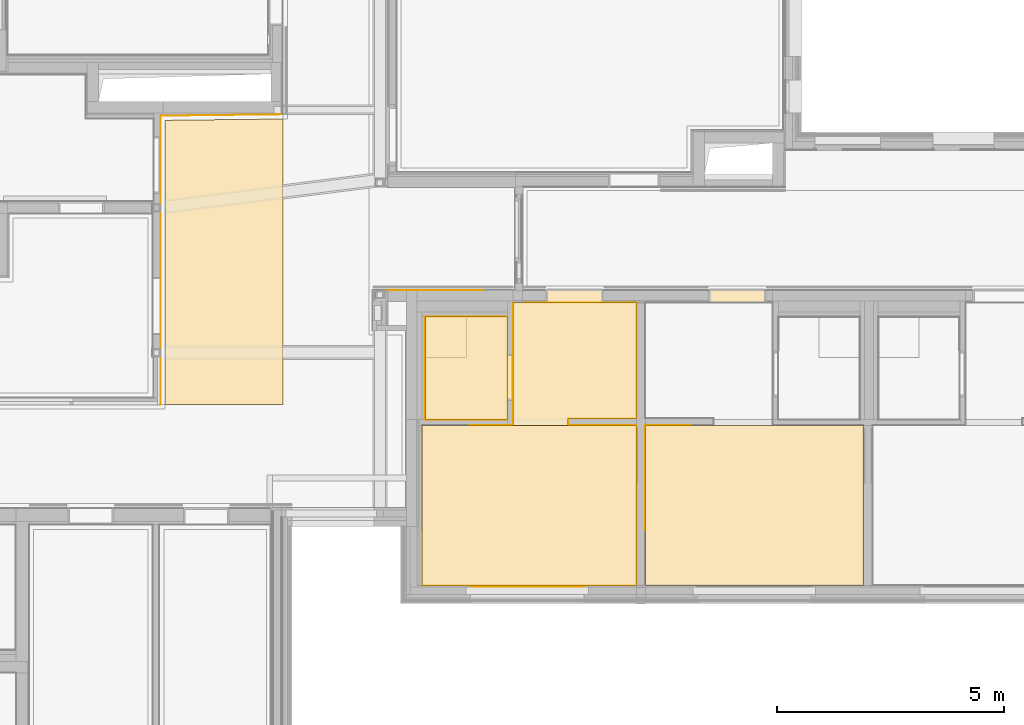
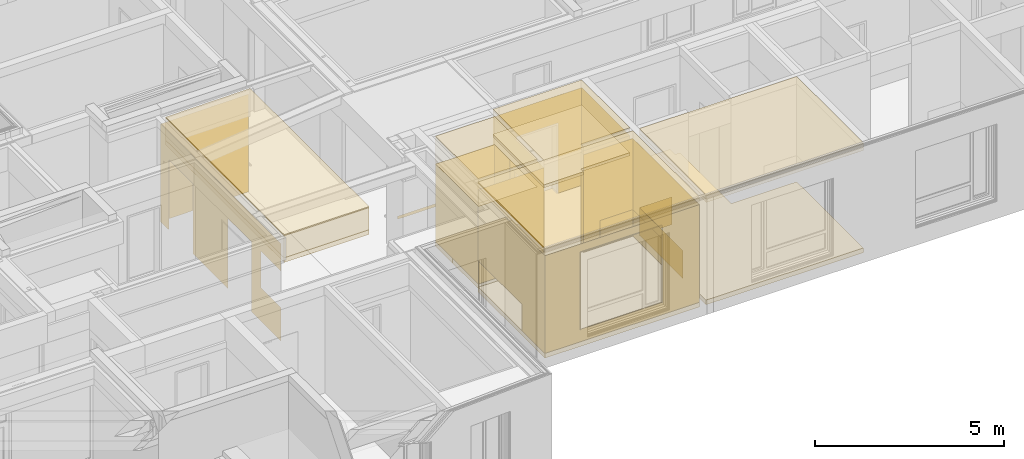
# One storey, part 183 of 222: 31 coverings.
"""IFC4 building model written with IfcOpenShell, lengths in metres."""

from ifc_helpers import new_model, entity, si_unit, converted_unit, derived_unit, frame, frame_2d, origin, origin_with_axes, place, context, subcontext, project, spatial, polyline, rectangle, outline, extrude, material, layer, layer_set, layer_usage, element, save


model = new_model("IFC4")

# Units and contexts
model_context = context("Model", 3, precision=1e-05, world=origin())
body_context = subcontext(model_context, "Body", "Model", "MODEL_VIEW")
ifc_project = project(units=[si_unit("LENGTHUNIT", "METRE"), si_unit("AREAUNIT", "SQUARE_METRE"), si_unit("VOLUMEUNIT", "CUBIC_METRE"), si_unit("MASSUNIT", "GRAM", prefix="KILO"), converted_unit("PLANEANGLEUNIT", "DEGREE", entity("IfcPlaneAngleMeasure", 0.0174532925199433), si_unit("PLANEANGLEUNIT", "RADIAN"), dimensions=[0, 0, 0, 0, 0, 0, 0]), derived_unit("THERMALTRANSMITTANCEUNIT", [(si_unit("POWERUNIT", "WATT"), 1), (si_unit("THERMODYNAMICTEMPERATUREUNIT", "KELVIN"), -1), (si_unit("LENGTHUNIT", "METRE"), -2)]), derived_unit("VOLUMETRICFLOWRATEUNIT", [(si_unit("LENGTHUNIT", "METRE"), 3), (converted_unit("TIMEUNIT", "hour", entity("IfcTimeMeasure", 3600.0), si_unit("TIMEUNIT", "SECOND"), dimensions=[0, 0, 1, 0, 0, 0, 0]), -1), (si_unit("LENGTHUNIT", "METRE"), -1)])], contexts=[model_context])

# Site, building, storey, space
site_placement = place(None, origin())
site = spatial("IfcSite", under=ifc_project, at=site_placement, Name="Psychiatrie Neubau Wunstorf", CompositionType="ELEMENT")
building_placement = place(site_placement, origin())
building = spatial("IfcBuilding", under=site, at=building_placement, Name="Neubau H2 Stationsgebäude", CompositionType="ELEMENT")
storey_placement = place(building_placement, frame((0.0, 0.0, 3.6)))
storey = spatial("IfcBuildingStorey", under=building, at=storey_placement, Name="H2 Ebene +1", CompositionType="ELEMENT", Elevation=3.6)
space_1_placement = place(storey_placement, frame((59.7893138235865, 0.536002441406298, 0.0)))
space_1 = spatial("IfcSpace", under=storey, at=space_1_placement, Name="WUN-H2-E01-F07", CompositionType="ELEMENT")

# Covering
ifc_material_1 = material(Name="97")
ifc_layer_1 = layer(ifc_material_1, 0.001)
ifc_layer_set_1 = layer_set([ifc_layer_1])
ifc_layer_usage_1 = layer_usage(ifc_layer_set_1, "AXIS3", "POSITIVE", 0.0)
covering_1_placement = place(space_1_placement, frame((10.6406861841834, 4.79649755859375, 0.8)))
element("IfcCovering", 1, at=covering_1_placement, inside=space_1, material=ifc_layer_usage_1, Name="Handlauf", PredefinedType="CLADDING", context=body_context, shape_type="SweptSolid", body=[
    extrude(rectangle(XDim=0.1, YDim=2.1, at=frame_2d((1.05, 0.05), x_axis=(0.0, 1.0))), frame((0.0, 0.0, 0.1), z_axis=(2.59855629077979e-15, 1.0, 0.0), x_axis=(1.0, -2.59855629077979e-15, 0.0)), (0.0, 0.0, 1.0), 0.001),
])

# Space
space_2_placement = place(storey_placement, frame((76.0999999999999, -1.16399999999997, 0.0)))
space_2 = spatial("IfcSpace", under=storey, at=space_2_placement, Name="WUN-H2-E01-095", CompositionType="ELEMENT")

# Coverings
ifc_material_2 = material(Name="84")
ifc_layer_2 = layer(ifc_material_2, 0.001)
ifc_layer_set_2 = layer_set([ifc_layer_2])
ifc_layer_usage_2 = layer_usage(ifc_layer_set_2, "AXIS3", "POSITIVE", 0.0)
covering_2_placement = place(space_2_placement, frame((0.0, 1.22449999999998, 0.1)))
element("IfcCovering", 2, at=covering_2_placement, inside=space_2, material=ifc_layer_usage_2, Name="Acrovyn", PredefinedType="CLADDING", context=body_context, shape_type="SweptSolid", body=[
    extrude(rectangle(XDim=1.0, YDim=0.9, at=frame_2d((0.5, -0.45), x_axis=(1.0, 0.0))), frame((1.0, 2.3, 0.0), z_axis=(0.0, -1.0, 0.0), x_axis=(-1.0, 0.0, 0.0)), (0.0, 0.0, 1.0), 0.001),
    extrude(rectangle(XDim=2.3, YDim=0.9, at=frame_2d((1.15, -0.45), x_axis=(1.0, 0.0))), frame((0.0, 2.3, 0.0), z_axis=(1.0, 0.0, 0.0), x_axis=(0.0, -1.0, 0.0)), (0.0, 0.0, 1.0), 0.001),
])
ifc_material_3 = material(Name="Ku1")
ifc_layer_3 = layer(ifc_material_3, 0.15)
ifc_layer_set_3 = layer_set([ifc_layer_3])
ifc_layer_usage_3 = layer_usage(ifc_layer_set_3, "AXIS3", "POSITIVE", 0.0)
covering_3_placement = place(space_2_placement, origin())
element("IfcCovering", 3, at=covering_3_placement, inside=space_2, material=ifc_layer_usage_3, Name="PVC Bahnenware Holzoptik", PredefinedType="FLOORING", context=body_context, shape_type="SweptSolid", body=[
    extrude(rectangle(XDim=0.272, YDim=1.26, at=frame_2d((-0.63, 0.136), x_axis=(0.0, 1.0))), frame((2.65000000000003, 6.22450000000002, 0.0), z_axis=(0.0, 0.0, 1.0), x_axis=(1.0, 0.0, 0.0)), (0.0, 0.0, 1.0), 0.15),
    extrude(outline(polyline([(2.79999999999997, 6.22450000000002), (0.0, 6.22450000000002), (0.0, 3.67449999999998), (1.50000000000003, 3.67449999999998), (1.50000000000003, 3.52449999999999), (0.0, 3.52449999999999), (0.0, 0.0), (4.80000000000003, 0.0), (4.80000000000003, 3.52450000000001), (2.80000000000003, 3.52450000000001), (2.79999999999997, 6.22450000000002)])), origin_with_axes(), (0.0, 0.0, 1.0), 0.15),
])
ifc_material_4 = material()
ifc_layer_4 = layer(ifc_material_4, 0.036)
ifc_layer_set_4 = layer_set([ifc_layer_4])
ifc_layer_usage_4 = layer_usage(ifc_layer_set_4, "AXIS3", "POSITIVE", 0.0)
covering_4_placement = place(space_2_placement, frame((0.0, 0.0, 3.55)))
element("IfcCovering", 4, at=covering_4_placement, inside=space_2, material=ifc_layer_usage_4, Name="Gipsfaserplatten 2-lagig (BSK)", PredefinedType="CEILING", context=body_context, shape_type="SweptSolid", body=[
    extrude(rectangle(XDim=3.52450000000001, YDim=4.8, at=frame_2d((-2.4, 1.76225), x_axis=(0.0, 1.0))), frame((4.8, 3.52450000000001, 0.0), z_axis=(0.0, 0.0, -1.0), x_axis=(1.0, 0.0, 0.0)), (0.0, 0.0, 1.0), 0.036),
])
ifc_material_5 = material(Name="Installationshöhe")
ifc_layer_5 = layer(ifc_material_5, 0.114)
ifc_layer_set_5 = layer_set([ifc_layer_5])
ifc_layer_usage_5 = layer_usage(ifc_layer_set_5, "AXIS3", "POSITIVE", 0.0)
covering_5_placement = place(space_2_placement, frame((0.0, 0.0, 3.514)))
element("IfcCovering", 5, at=covering_5_placement, inside=space_2, material=ifc_layer_usage_5, Name="Gipsfaserplatten 2-lagig (BSK)", PredefinedType="CEILING", context=body_context, shape_type="SweptSolid", body=[
    extrude(rectangle(XDim=3.52450000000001, YDim=4.8, at=frame_2d((-2.4, 1.76225), x_axis=(0.0, 1.0))), frame((4.8, 3.52450000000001, 0.0), z_axis=(0.0, 0.0, -1.0), x_axis=(1.0, 0.0, 0.0)), (0.0, 0.0, 1.0), 0.114),
])
ifc_material_6 = material(Name="A1")
ifc_layer_6 = layer(ifc_material_6, 0.1)
ifc_layer_set_6 = layer_set([ifc_layer_6])
ifc_layer_usage_6 = layer_usage(ifc_layer_set_6, "AXIS3", "POSITIVE", 0.0)
covering_6_placement = place(space_2_placement, frame((0.0, 0.0, 3.4)))
element("IfcCovering", 6, at=covering_6_placement, inside=space_2, material=ifc_layer_usage_6, Name="Gipsfaserplatten 2-lagig (BSK)", PredefinedType="CEILING", context=body_context, shape_type="SweptSolid", body=[
    extrude(rectangle(XDim=3.52450000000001, YDim=4.8, at=frame_2d((-2.4, 1.76225), x_axis=(0.0, 1.0))), frame((4.8, 3.52450000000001, 0.0), z_axis=(0.0, 0.0, -1.0), x_axis=(1.0, 0.0, 0.0)), (0.0, 0.0, 1.0), 0.1),
])
ifc_material_7 = material(Name="D1")
ifc_layer_7 = layer(ifc_material_7, 0.001)
ifc_layer_set_7 = layer_set([ifc_layer_7])
ifc_layer_usage_7 = layer_usage(ifc_layer_set_7, "AXIS3", "POSITIVE", 0.0)
covering_7_placement = place(space_2_placement, frame((0.0, 0.0, 3.3)))
element("IfcCovering", 7, at=covering_7_placement, inside=space_2, material=ifc_layer_usage_7, Name="Gipsfaserplatten 2-lagig (BSK)", PredefinedType="CEILING", context=body_context, shape_type="SweptSolid", body=[
    extrude(rectangle(XDim=3.52450000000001, YDim=4.8, at=frame_2d((-2.4, 1.76225), x_axis=(0.0, 1.0))), frame((4.8, 3.52450000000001, 0.0), z_axis=(0.0, 0.0, -1.0), x_axis=(1.0, 0.0, 0.0)), (0.0, 0.0, 1.0), 0.001),
])

# Space
space_3_placement = place(storey_placement, frame((71.1825, -1.16399999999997, 0.0)))
space_3 = spatial("IfcSpace", under=storey, at=space_3_placement, Name="WUN-H2-E01-096", CompositionType="ELEMENT")

# Coverings
ifc_material_8 = material(Name="84")
ifc_layer_8 = layer(ifc_material_8, 0.001)
ifc_layer_set_8 = layer_set([ifc_layer_8])
ifc_layer_usage_8 = layer_usage(ifc_layer_set_8, "AXIS3", "POSITIVE", 0.0)
covering_8_placement = place(space_3_placement, frame((3.71750000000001, 1.22450005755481, 0.1)))
element("IfcCovering", 8, at=covering_8_placement, inside=space_3, material=ifc_layer_usage_8, Name="Acrovyn", PredefinedType="CLADDING", context=body_context, shape_type="SweptSolid", body=[
    extrude(rectangle(XDim=0.9, YDim=1.0, at=frame_2d((-0.5, -0.45), x_axis=(0.0, -1.0))), frame((0.0, 2.3, 0.0), z_axis=(4.54747350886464e-16, -1.0, 0.0), x_axis=(-1.0, -4.54747350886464e-16, 0.0)), (0.0, 0.0, 1.0), 0.001),
    extrude(rectangle(XDim=0.9, YDim=2.3, at=frame_2d((-1.15, -0.45), x_axis=(0.0, -1.0))), frame((1.0, 2.3, 0.0), z_axis=(-1.0, 0.0, 0.0), x_axis=(0.0, 1.0, 0.0)), (0.0, 0.0, 1.0), 0.001),
])
ifc_material_9 = material()
ifc_layer_9 = layer(ifc_material_9, 0.036)
ifc_layer_set_9 = layer_set([ifc_layer_9])
ifc_layer_usage_9 = layer_usage(ifc_layer_set_9, "AXIS3", "POSITIVE", 0.0)
covering_9_placement = place(space_3_placement, frame((2.00500000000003, 3.5245000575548, 3.55)))
element("IfcCovering", 9, at=covering_9_placement, inside=space_3, material=ifc_layer_usage_9, Name="Gipsfaserplatten 2-lagig (BSK)", PredefinedType="CEILING", context=body_context, shape_type="SweptSolid", body=[
    extrude(outline(polyline([(0.0, 0.0), (2.71249999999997, 0.0), (2.71249999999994, 2.54999994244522), (1.21249999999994, 2.54999994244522), (1.21249999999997, 2.69999994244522), (0.0, 2.69999994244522), (0.0, 0.0)])), frame((0.0, 2.69999994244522, 0.0), z_axis=(0.0, 0.0, -1.0), x_axis=(1.0, 0.0, 0.0)), (0.0, 0.0, 1.0), 0.036),
])
ifc_material_10 = material(Name="Installationshöhe")
ifc_layer_10 = layer(ifc_material_10, 0.764)
ifc_layer_set_10 = layer_set([ifc_layer_10])
ifc_layer_usage_10 = layer_usage(ifc_layer_set_10, "AXIS3", "POSITIVE", 0.0)
covering_10_placement = place(space_3_placement, frame((2.00500000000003, 3.5245000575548, 3.514)))
element("IfcCovering", 10, at=covering_10_placement, inside=space_3, material=ifc_layer_usage_10, Name="Gipsfaserplatten 2-lagig (BSK)", PredefinedType="CEILING", context=body_context, shape_type="SweptSolid", body=[
    extrude(outline(polyline([(0.0, 0.0), (2.71249999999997, 0.0), (2.71249999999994, 2.54999994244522), (1.21249999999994, 2.54999994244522), (1.21249999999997, 2.69999994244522), (0.0, 2.69999994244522), (0.0, 0.0)])), frame((0.0, 2.69999994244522, 0.0), z_axis=(0.0, 0.0, -1.0), x_axis=(1.0, 0.0, 0.0)), (0.0, 0.0, 1.0), 0.764),
])
ifc_material_11 = material(Name="A1")
ifc_layer_11 = layer(ifc_material_11, 0.1)
ifc_layer_set_11 = layer_set([ifc_layer_11])
ifc_layer_usage_11 = layer_usage(ifc_layer_set_11, "AXIS3", "POSITIVE", 0.0)
covering_11_placement = place(space_3_placement, frame((2.00500000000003, 3.5245000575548, 2.75)))
element("IfcCovering", 11, at=covering_11_placement, inside=space_3, material=ifc_layer_usage_11, Name="Gipsfaserplatten 2-lagig (BSK)", PredefinedType="CEILING", context=body_context, shape_type="SweptSolid", body=[
    extrude(outline(polyline([(0.0, 0.0), (2.71249999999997, 0.0), (2.71249999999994, 2.54999994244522), (1.21249999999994, 2.54999994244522), (1.21249999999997, 2.69999994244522), (0.0, 2.69999994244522), (0.0, 0.0)])), frame((0.0, 2.69999994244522, 0.0), z_axis=(0.0, 0.0, -1.0), x_axis=(1.0, 0.0, 0.0)), (0.0, 0.0, 1.0), 0.1),
])
ifc_material_12 = material(Name="D1")
ifc_layer_12 = layer(ifc_material_12, 0.001)
ifc_layer_set_12 = layer_set([ifc_layer_12])
ifc_layer_usage_12 = layer_usage(ifc_layer_set_12, "AXIS3", "POSITIVE", 0.0)
covering_12_placement = place(space_3_placement, frame((2.00500000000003, 3.5245000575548, 2.65)))
element("IfcCovering", 12, at=covering_12_placement, inside=space_3, material=ifc_layer_usage_12, Name="Gipsfaserplatten 2-lagig (BSK)", PredefinedType="CEILING", context=body_context, shape_type="SweptSolid", body=[
    extrude(outline(polyline([(0.0, 0.0), (2.71249999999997, 0.0), (2.71249999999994, 2.54999994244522), (1.21249999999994, 2.54999994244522), (1.21249999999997, 2.69999994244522), (0.0, 2.69999994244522), (0.0, 0.0)])), frame((0.0, 2.69999994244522, 0.0), z_axis=(0.0, 0.0, -1.0), x_axis=(1.0, 0.0, 0.0)), (0.0, 0.0, 1.0), 0.001),
])
ifc_material_13 = material(Name="Ku1")
ifc_layer_13 = layer(ifc_material_13, 0.15)
ifc_layer_set_13 = layer_set([ifc_layer_13])
ifc_layer_usage_13 = layer_usage(ifc_layer_set_13, "AXIS3", "POSITIVE", 0.0)
covering_13_placement = place(space_3_placement, origin())
element("IfcCovering", 13, at=covering_13_placement, inside=space_3, material=ifc_layer_usage_13, Name="PVC Bahnenware Holzoptik", PredefinedType="FLOORING", context=body_context, shape_type="SweptSolid", body=[
    extrude(rectangle(XDim=0.272, YDim=1.26, at=frame_2d((-0.63, 0.136), x_axis=(0.0, 1.0))), frame((3.9875, 6.22450000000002, 0.0), z_axis=(0.0, 0.0, 1.0), x_axis=(1.0, 0.0, 0.0)), (0.0, 0.0, 1.0), 0.15),
    extrude(outline(polyline([(0.0, 3.52450000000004), (0.0, 0.0), (4.7175, 0.0), (4.7175, 3.5245000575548), (3.2175, 3.5245000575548), (3.21749999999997, 3.6745000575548), (4.71749999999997, 3.6745000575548), (4.7175, 6.22450000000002), (2.00500000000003, 6.22450000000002), (2.00500000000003, 3.52450000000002), (0.0, 3.52450000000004)])), origin_with_axes(), (0.0, 0.0, 1.0), 0.15),
])
ifc_material_14 = material()
ifc_layer_14 = layer(ifc_material_14, 0.036)
ifc_layer_set_14 = layer_set([ifc_layer_14])
ifc_layer_usage_14 = layer_usage(ifc_layer_set_14, "AXIS3", "POSITIVE", 0.0)
covering_14_placement = place(space_3_placement, frame((0.0, 0.0, 3.55)))
element("IfcCovering", 14, at=covering_14_placement, inside=space_3, material=ifc_layer_usage_14, Name="Gipsfaserplatten 2-lagig (BSK)", PredefinedType="CEILING", context=body_context, shape_type="SweptSolid", body=[
    extrude(rectangle(XDim=3.52450000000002, YDim=4.7175, at=frame_2d((2.35875, -1.76225002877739), x_axis=(0.0, -1.0))), frame((0.0, 0.0, 0.0), z_axis=(0.0, 0.0, -1.0), x_axis=(1.0, 0.0, 0.0)), (0.0, 0.0, 1.0), 0.036),
])
ifc_material_15 = material(Name="Installationshöhe")
ifc_layer_15 = layer(ifc_material_15, 0.114)
ifc_layer_set_15 = layer_set([ifc_layer_15])
ifc_layer_usage_15 = layer_usage(ifc_layer_set_15, "AXIS3", "POSITIVE", 0.0)
covering_15_placement = place(space_3_placement, frame((0.0, 0.0, 3.514)))
element("IfcCovering", 15, at=covering_15_placement, inside=space_3, material=ifc_layer_usage_15, Name="Gipsfaserplatten 2-lagig (BSK)", PredefinedType="CEILING", context=body_context, shape_type="SweptSolid", body=[
    extrude(rectangle(XDim=3.52450000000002, YDim=4.7175, at=frame_2d((2.35875, -1.76225002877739), x_axis=(0.0, -1.0))), frame((0.0, 0.0, 0.0), z_axis=(0.0, 0.0, -1.0), x_axis=(1.0, 0.0, 0.0)), (0.0, 0.0, 1.0), 0.114),
])
ifc_material_16 = material(Name="A1")
ifc_layer_16 = layer(ifc_material_16, 0.1)
ifc_layer_set_16 = layer_set([ifc_layer_16])
ifc_layer_usage_16 = layer_usage(ifc_layer_set_16, "AXIS3", "POSITIVE", 0.0)
covering_16_placement = place(space_3_placement, frame((0.0, 0.0, 3.4)))
element("IfcCovering", 16, at=covering_16_placement, inside=space_3, material=ifc_layer_usage_16, Name="Gipsfaserplatten 2-lagig (BSK)", PredefinedType="CEILING", context=body_context, shape_type="SweptSolid", body=[
    extrude(rectangle(XDim=3.52450000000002, YDim=4.7175, at=frame_2d((2.35875, -1.76225002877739), x_axis=(0.0, -1.0))), frame((0.0, 0.0, 0.0), z_axis=(0.0, 0.0, -1.0), x_axis=(1.0, 0.0, 0.0)), (0.0, 0.0, 1.0), 0.1),
])
ifc_material_17 = material(Name="D1")
ifc_layer_17 = layer(ifc_material_17, 0.001)
ifc_layer_set_17 = layer_set([ifc_layer_17])
ifc_layer_usage_17 = layer_usage(ifc_layer_set_17, "AXIS3", "POSITIVE", 0.0)
covering_17_placement = place(space_3_placement, frame((0.0, 0.0, 3.3)))
element("IfcCovering", 17, at=covering_17_placement, inside=space_3, material=ifc_layer_usage_17, Name="Gipsfaserplatten 2-lagig (BSK)", PredefinedType="CEILING", context=body_context, shape_type="SweptSolid", body=[
    extrude(rectangle(XDim=3.52450000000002, YDim=4.7175, at=frame_2d((2.35875, -1.76225002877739), x_axis=(0.0, -1.0))), frame((0.0, 0.0, 0.0), z_axis=(0.0, 0.0, -1.0), x_axis=(1.0, 0.0, 0.0)), (0.0, 0.0, 1.0), 0.001),
])
ifc_material_18 = material(Name="49")
ifc_layer_18 = layer(ifc_material_18, 0.001)
ifc_layer_set_18 = layer_set([ifc_layer_18])
ifc_layer_usage_18 = layer_usage(ifc_layer_set_18, "AXIS3", "POSITIVE", 0.0)
covering_18_placement = place(space_3_placement, frame((0.0, -0.0249999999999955, 0.15)))
element("IfcCovering", 18, at=covering_18_placement, inside=space_3, material=ifc_layer_usage_18, PredefinedType="CLADDING", context=body_context, shape_type="SweptSolid", body=[
    extrude(outline(polyline([(0.0, 3.15), (1.14000000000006, 3.15), (1.14000000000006, 0.89), (2.15000000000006, 0.89), (2.15000000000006, 3.15), (2.7, 3.15), (2.7, 0.0), (0.0, 0.0), (0.0, 3.15)])), frame((2.00500000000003, 6.24950000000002, 3.15), z_axis=(1.0, 0.0, 0.0), x_axis=(0.0, -1.0, 0.0)), (0.0, 0.0, 1.0), 0.001),
    extrude(outline(polyline([(0.0, 3.15), (1.00150000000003, 3.15), (1.00150000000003, 2.3), (2.00500000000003, 2.3), (2.00500000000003, 0.0), (0.0, 0.0), (0.0, 3.15)])), frame((2.00500000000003, 3.54950000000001, 3.15), z_axis=(-1.13603428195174e-14, -1.0, 9.1574989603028e-16), x_axis=(-1.0, 1.13603428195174e-14, 0.0)), (0.0, 0.0, 1.0), 0.001),
    extrude(outline(polyline([(2.3, 3.15), (3.52450000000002, 3.15), (3.52450000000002, 0.0), (0.0, 0.0), (0.0, 2.3), (2.3, 2.3), (2.3, 3.15)])), frame((0.0, 3.54950000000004, 3.15), z_axis=(1.0, 0.0, 0.0), x_axis=(0.0, -1.0, 0.0)), (0.0, 0.0, 1.0), 0.001),
    extrude(outline(polyline([(0.0, 3.15), (4.7175, 3.15), (4.7175, 0.0), (0.0, 0.0), (0.0, 3.15)]), holes=[polyline([(3.56750004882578, 2.75), (1.06750004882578, 2.75), (1.06750004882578, 0.25), (3.56750004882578, 0.25), (3.56750004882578, 2.75)])]), frame((0.0, 0.0250000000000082, 3.15), z_axis=(2.5548420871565e-15, 1.0, 0.0), x_axis=(1.0, -2.5548420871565e-15, 0.0)), (0.0, 0.0, 1.0), 0.001),
    extrude(outline(polyline([(0.0, 3.15), (1.22450005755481, 3.15), (1.22450005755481, 2.3), (3.5245000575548, 2.3), (3.5245000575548, 0.0), (0.0, 0.0), (0.0, 3.15)])), frame((4.7175, 0.0249999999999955, 3.15), z_axis=(-1.0, -1.39844787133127e-15, -1.21857414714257e-15), x_axis=(-1.39844787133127e-15, 1.0, 0.0)), (0.0, 0.0, 1.0), 0.001),
    extrude(outline(polyline([(0.999999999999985, 3.15), (1.5, 3.15), (1.5, 0.0), (0.0, 0.0), (0.0, 2.3), (0.999999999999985, 2.3), (0.999999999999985, 3.15)])), frame((4.7175, 3.54950005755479, 3.15), z_axis=(-1.87087966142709e-15, -1.0, -7.92505756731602e-16), x_axis=(-1.0, 1.87087966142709e-15, 0.0)), (0.0, 0.0, 1.0), 0.001),
    extrude(rectangle(XDim=0.15, YDim=3.15, at=frame_2d((0.0749999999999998, -1.575), x_axis=(1.0, 0.0))), frame((3.2175, 3.54950005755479, 0.0), z_axis=(-1.0, -1.94025536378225e-13, 0.0), x_axis=(-1.94025536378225e-13, 1.0, 0.0)), (0.0, 0.0, 1.0), 0.001),
    extrude(rectangle(XDim=1.5, YDim=3.15, at=frame_2d((0.75, -1.575), x_axis=(1.0, 0.0))), frame((3.21749999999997, 3.69950005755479, 0.0), z_axis=(0.0, 1.0, 0.0), x_axis=(1.0, 0.0, 0.0)), (0.0, 0.0, 1.0), 0.001),
    extrude(rectangle(XDim=2.54999994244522, YDim=3.15, at=frame_2d((1.27499997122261, -1.575), x_axis=(1.0, 0.0))), frame((4.71749999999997, 3.69950005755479, 0.0), z_axis=(-1.0, 1.14132671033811e-14, 0.0), x_axis=(1.14132671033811e-14, 1.0, 0.0)), (0.0, 0.0, 1.0), 0.001),
    extrude(outline(polyline([(0.0, 3.15), (0.73, 3.15), (0.73, 0.89), (1.99, 0.89), (1.99, 3.15), (2.71249999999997, 3.15), (2.71249999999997, 0.0), (0.0, 0.0), (0.0, 3.15)])), frame((4.7175, 6.24950000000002, 3.15), z_axis=(0.0, -1.0, -1.18289019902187e-16), x_axis=(-1.0, 0.0, 0.0)), (0.0, 0.0, 1.0), 0.001),
    extrude(rectangle(XDim=0.0249999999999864, YDim=2.5, at=frame_2d((0.0124999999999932, -1.25), x_axis=(1.0, 0.0))), frame((1.06750004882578, 0.0249999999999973, 0.4), z_axis=(1.0, 0.0, 0.0), x_axis=(0.0, -1.0, 0.0)), (0.0, 0.0, 1.0), 0.001),
    extrude(rectangle(XDim=2.5, YDim=0.0249999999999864, at=frame_2d((-1.25, 0.012499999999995), x_axis=(-1.0, 1.45519152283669e-15))), frame((3.56750004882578, 0.0250000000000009, 2.9), z_axis=(-1.8189894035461e-16, -1.81898940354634e-14, -1.0), x_axis=(1.0, 0.0, 0.0)), (0.0, 0.0, 1.0), 0.001),
    extrude(rectangle(XDim=2.5, YDim=0.0250000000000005, at=frame_2d((-0.0125000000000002, -1.25), x_axis=(0.0, -1.0))), frame((3.56750004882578, 0.0250000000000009, 0.4), z_axis=(-1.0, 0.0, 0.0), x_axis=(0.0, 1.0, 0.0)), (0.0, 0.0, 1.0), 0.001),
])

# Space
space_4_placement = place(storey_placement, frame((71.2575, 2.48550000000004, 0.0)))
space_4 = spatial("IfcSpace", under=storey, at=space_4_placement, Name="WUN-H2-E01-096a", CompositionType="ELEMENT")

# Coverings
ifc_material_19 = material(Name="Fl2")
ifc_layer_19 = layer(ifc_material_19, 0.15)
ifc_layer_set_19 = layer_set([ifc_layer_19])
ifc_layer_usage_19 = layer_usage(ifc_layer_set_19, "AXIS3", "POSITIVE", 0.0)
covering_19_placement = place(space_4_placement, frame((0.0, 1.36499999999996, 0.0)))
element("IfcCovering", 19, at=covering_19_placement, inside=space_4, material=ifc_layer_usage_19, Name="Fliesen Mosaik", PredefinedType="FLOORING", context=body_context, shape_type="SweptSolid", body=[
    extrude(rectangle(XDim=0.9, YDim=0.9, at=frame_2d((0.45, -0.45), x_axis=(0.0, -1.0))), frame((0.0, 0.9, 0.0), z_axis=(0.0, 0.0, 1.0), x_axis=(1.0, 0.0, 0.0)), (0.0, 0.0, 1.0), 0.15),
])
ifc_material_20 = material(Name="Fl1")
ifc_layer_20 = layer(ifc_material_20, 0.15)
ifc_layer_set_20 = layer_set([ifc_layer_20])
ifc_layer_usage_20 = layer_usage(ifc_layer_set_20, "AXIS3", "POSITIVE", 0.0)
covering_20_placement = place(space_4_placement, origin())
element("IfcCovering", 20, at=covering_20_placement, inside=space_4, material=ifc_layer_usage_20, Name="Fliesen", PredefinedType="FLOORING", context=body_context, shape_type="SweptSolid", body=[
    extrude(rectangle(XDim=0.125, YDim=1.01, at=frame_2d((-0.0625, -0.505), x_axis=(-1.0, 0.0))), frame((1.93000000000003, 1.43499999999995, 0.0), z_axis=(0.0, 0.0, 1.0), x_axis=(1.0, 0.0, 0.0)), (0.0, 0.0, 1.0), 0.15),
    extrude(outline(polyline([(0.0, 0.0), (1.80500000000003, 0.0), (1.80500000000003, 2.26499999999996), (0.9, 2.26499999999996), (0.9, 1.36499999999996), (0.0, 1.36499999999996), (0.0, 0.0)])), origin_with_axes(), (0.0, 0.0, 1.0), 0.15),
])
ifc_material_21 = material()
ifc_layer_21 = layer(ifc_material_21, 0.036)
ifc_layer_set_21 = layer_set([ifc_layer_21])
ifc_layer_usage_21 = layer_usage(ifc_layer_set_21, "AXIS3", "POSITIVE", 0.0)
covering_21_placement = place(space_4_placement, frame((0.0, 0.0, 3.55)))
element("IfcCovering", 21, at=covering_21_placement, inside=space_4, material=ifc_layer_usage_21, Name="Gipsfaserplatten 2-lagig (BSK)", PredefinedType="CEILING", context=body_context, shape_type="SweptSolid", body=[
    extrude(rectangle(XDim=2.26499999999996, YDim=1.80500000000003, at=frame_2d((0.902500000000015, -1.13249999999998), x_axis=(0.0, -1.0))), frame((0.0, 0.0, 0.0), z_axis=(0.0, 0.0, -1.0), x_axis=(1.0, 0.0, 0.0)), (0.0, 0.0, 1.0), 0.036),
])
ifc_material_22 = material(Name="Installationshöhe")
ifc_layer_22 = layer(ifc_material_22, 0.764)
ifc_layer_set_22 = layer_set([ifc_layer_22])
ifc_layer_usage_22 = layer_usage(ifc_layer_set_22, "AXIS3", "POSITIVE", 0.0)
covering_22_placement = place(space_4_placement, frame((0.0, 0.0, 3.514)))
element("IfcCovering", 22, at=covering_22_placement, inside=space_4, material=ifc_layer_usage_22, Name="Gipsfaserplatten 2-lagig (BSK)", PredefinedType="CEILING", context=body_context, shape_type="SweptSolid", body=[
    extrude(rectangle(XDim=2.26499999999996, YDim=1.80500000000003, at=frame_2d((0.902500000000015, -1.13249999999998), x_axis=(0.0, -1.0))), frame((0.0, 0.0, 0.0), z_axis=(0.0, 0.0, -1.0), x_axis=(1.0, 0.0, 0.0)), (0.0, 0.0, 1.0), 0.764),
])
ifc_material_23 = material(Name="B")
ifc_layer_23 = layer(ifc_material_23, 0.1)
ifc_layer_set_23 = layer_set([ifc_layer_23])
ifc_layer_usage_23 = layer_usage(ifc_layer_set_23, "AXIS3", "POSITIVE", 0.0)
covering_23_placement = place(space_4_placement, frame((0.0, 0.0, 2.75)))
element("IfcCovering", 23, at=covering_23_placement, inside=space_4, material=ifc_layer_usage_23, Name="Gipskarton, imprägniert", PredefinedType="CEILING", context=body_context, shape_type="SweptSolid", body=[
    extrude(rectangle(XDim=2.26499999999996, YDim=1.80500000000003, at=frame_2d((0.902500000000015, -1.13249999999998), x_axis=(0.0, -1.0))), frame((0.0, 0.0, 0.0), z_axis=(0.0, 0.0, -1.0), x_axis=(1.0, 0.0, 0.0)), (0.0, 0.0, 1.0), 0.1),
])
ifc_material_24 = material(Name="D1")
ifc_layer_24 = layer(ifc_material_24, 0.001)
ifc_layer_set_24 = layer_set([ifc_layer_24])
ifc_layer_usage_24 = layer_usage(ifc_layer_set_24, "AXIS3", "POSITIVE", 0.0)
covering_24_placement = place(space_4_placement, frame((0.0, 0.0, 2.65)))
element("IfcCovering", 24, at=covering_24_placement, inside=space_4, material=ifc_layer_usage_24, Name="Gipsfaserplatten 2-lagig (BSK)", PredefinedType="CEILING", context=body_context, shape_type="SweptSolid", body=[
    extrude(rectangle(XDim=2.26499999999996, YDim=1.80500000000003, at=frame_2d((0.902500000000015, -1.13249999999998), x_axis=(0.0, -1.0))), frame((0.0, 0.0, 0.0), z_axis=(0.0, 0.0, -1.0), x_axis=(1.0, 0.0, 0.0)), (0.0, 0.0, 1.0), 0.001),
])
ifc_material_25 = material(Name="50")
ifc_layer_25 = layer(ifc_material_25, 0.001)
ifc_layer_set_25 = layer_set([ifc_layer_25])
ifc_layer_usage_25 = layer_usage(ifc_layer_set_25, "AXIS3", "POSITIVE", 0.0)
covering_25_placement = place(space_4_placement, frame((0.0, 0.0, 0.15)))
element("IfcCovering", 25, at=covering_25_placement, inside=space_4, material=ifc_layer_usage_25, PredefinedType="CLADDING", context=body_context, shape_type="SweptSolid", body=[
    extrude(outline(polyline([(0.0, 2.5), (0.42499999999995, 2.5), (0.42499999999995, 0.24), (1.43499999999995, 0.24), (1.43499999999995, 2.5), (1.44999999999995, 2.5), (1.44999999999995, 0.0), (0.0, 0.0), (0.0, 2.5)])), frame((1.80500000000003, 0.0, 2.5), z_axis=(-1.0, 0.0, 0.0), x_axis=(0.0, 1.0, 0.0)), (0.0, 0.0, 1.0), 0.001),
    extrude(rectangle(XDim=1.80500000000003, YDim=2.5, at=frame_2d((0.902500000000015, -1.25), x_axis=(1.0, 0.0))), frame((0.0, 0.0, 0.0), z_axis=(0.0, 1.0, 0.0), x_axis=(1.0, 0.0, 0.0)), (0.0, 0.0, 1.0), 0.001),
])
ifc_material_26 = material(Name="68")
ifc_layer_26 = layer(ifc_material_26, 0.01)
ifc_layer_set_26 = layer_set([ifc_layer_26])
ifc_layer_usage_26 = layer_usage(ifc_layer_set_26, "AXIS3", "POSITIVE", 0.0)
covering_26_placement = place(space_4_placement, frame((0.0, 0.0, 0.15)))
element("IfcCovering", 26, at=covering_26_placement, inside=space_4, material=ifc_layer_usage_26, Name="a-sh Wandbelag", PredefinedType="CLADDING", context=body_context, shape_type="SweptSolid", body=[
    extrude(rectangle(XDim=0.815000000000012, YDim=2.5, at=frame_2d((0.407500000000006, -1.25), x_axis=(1.0, 0.0))), frame((1.805, 1.44999999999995, 0.0), z_axis=(-1.0, 0.0, 0.0), x_axis=(0.0, 1.0, 0.0)), (0.0, 0.0, 1.0), 0.01),
    extrude(rectangle(XDim=2.26499999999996, YDim=2.5, at=frame_2d((1.13249999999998, -1.25), x_axis=(1.0, 0.0))), frame((0.0, 2.26499999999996, 0.0), z_axis=(1.0, 0.0, 0.0), x_axis=(0.0, -1.0, 0.0)), (0.0, 0.0, 1.0), 0.01),
    extrude(rectangle(XDim=1.805, YDim=2.5, at=frame_2d((0.9025, -1.25), x_axis=(1.0, 0.0))), frame((1.805, 2.26499999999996, 0.0), z_axis=(0.0, -1.0, 0.0), x_axis=(-1.0, 0.0, 0.0)), (0.0, 0.0, 1.0), 0.01),
])

# Space
space_5_placement = place(storey_placement, frame((65.4249963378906, 2.81749969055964, 0.0)))
space_5 = spatial("IfcSpace", under=storey, at=space_5_placement, Name="WUN-H2-E01-073", CompositionType="ELEMENT")

# Coverings
ifc_material_27 = material(Name="49")
ifc_layer_27 = layer(ifc_material_27, 0.001)
ifc_layer_set_27 = layer_set([ifc_layer_27])
ifc_layer_usage_27 = layer_usage(ifc_layer_set_27, "AXIS3", "POSITIVE", 0.0)
covering_27_placement = place(space_5_placement, frame((0.0, 0.0, 0.15)))
element("IfcCovering", 27, at=covering_27_placement, inside=space_5, material=ifc_layer_usage_27, PredefinedType="CLADDING", context=body_context, shape_type="SweptSolid", body=[
    extrude(rectangle(XDim=2.69267078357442, YDim=3.15, at=frame_2d((1.34633539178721, -1.575), x_axis=(1.0, 0.0))), frame((2.69250366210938, 6.38750036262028, 0.0), z_axis=(0.0111412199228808, -0.999937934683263, 0.0), x_axis=(-0.999937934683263, -0.0111412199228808, 0.0)), (0.0, 0.0, 1.0), 0.001),
    extrude(outline(polyline([(0.0, 3.15), (0.453304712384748, 3.15), (0.453304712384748, 0.89), (1.71330471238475, 0.89), (1.71330471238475, 3.15), (3.55750072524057, 3.15), (3.55750072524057, 0.89), (4.81750072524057, 0.89), (4.81750072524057, 3.15), (6.35750072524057, 3.15), (6.35750072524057, 2.07), (5.30500346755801, 2.07), (5.30500346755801, 0.89), (6.35750072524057, 0.89), (6.35750072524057, 0.0), (0.0, 0.0), (0.0, 3.15)])), frame((0.0, 6.35750072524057, 3.15), z_axis=(1.0, 1.09071562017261e-14, 5.77993476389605e-15), x_axis=(1.09071562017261e-14, -1.0, 0.0)), (0.0, 0.0, 1.0), 0.001),
])
ifc_material_28 = material()
ifc_layer_28 = layer(ifc_material_28, 0.036)
ifc_layer_set_28 = layer_set([ifc_layer_28])
ifc_layer_usage_28 = layer_usage(ifc_layer_set_28, "AXIS3", "POSITIVE", 0.0)
covering_28_placement = place(space_5_placement, frame((0.0999962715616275, 0.0, 3.55)))
element("IfcCovering", 28, at=covering_28_placement, inside=space_5, material=ifc_layer_usage_28, Name="Gipsfaserplatten 2-lagig (BSK)", PredefinedType="CEILING", context=body_context, shape_type="SweptSolid", body=[
    extrude(outline(polyline([(2.59250739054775, 0.0), (2.59250739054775, 6.28750036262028), (0.0, 6.28749874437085), (0.0, 0.0299996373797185), (2.59250739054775, 0.0)])), frame((0.0, 6.28750036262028, 0.0), z_axis=(0.0, 0.0, -1.0), x_axis=(1.0, 0.0, 0.0)), (0.0, 0.0, 1.0), 0.036),
])
ifc_material_29 = material(Name="Installationshöhe")
ifc_layer_29 = layer(ifc_material_29, 0.714)
ifc_layer_set_29 = layer_set([ifc_layer_29])
ifc_layer_usage_29 = layer_usage(ifc_layer_set_29, "AXIS3", "POSITIVE", 0.0)
covering_29_placement = place(space_5_placement, frame((0.0999962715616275, 0.0, 3.514)))
element("IfcCovering", 29, at=covering_29_placement, inside=space_5, material=ifc_layer_usage_29, Name="Gipsfaserplatten 2-lagig (BSK)", PredefinedType="CEILING", context=body_context, shape_type="SweptSolid", body=[
    extrude(outline(polyline([(2.59250739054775, 0.0), (2.59250739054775, 6.28750036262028), (0.0, 6.28749874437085), (0.0, 0.0299996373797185), (2.59250739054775, 0.0)])), frame((0.0, 6.28750036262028, 0.0), z_axis=(0.0, 0.0, -1.0), x_axis=(1.0, 0.0, 0.0)), (0.0, 0.0, 1.0), 0.714),
])
ifc_material_30 = material(Name="Aa")
ifc_layer_30 = layer(ifc_material_30, 0.15)
ifc_layer_set_30 = layer_set([ifc_layer_30])
ifc_layer_usage_30 = layer_usage(ifc_layer_set_30, "AXIS3", "POSITIVE", 0.0)
covering_30_placement = place(space_5_placement, frame((0.0999962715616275, 0.0, 2.8)))
element("IfcCovering", 30, at=covering_30_placement, inside=space_5, material=ifc_layer_usage_30, Name="Gipsfaserplatten 2-lagig (BSK)", PredefinedType="CEILING", context=body_context, shape_type="SweptSolid", body=[
    extrude(outline(polyline([(2.59250739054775, 0.0), (2.59250739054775, 6.28750036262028), (0.0, 6.28749874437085), (0.0, 0.0299996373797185), (2.59250739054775, 0.0)])), frame((0.0, 6.28750036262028, 0.0), z_axis=(0.0, 0.0, -1.0), x_axis=(1.0, 0.0, 0.0)), (0.0, 0.0, 1.0), 0.15),
])
ifc_material_31 = material(Name="D1")
ifc_layer_31 = layer(ifc_material_31, 0.001)
ifc_layer_set_31 = layer_set([ifc_layer_31])
ifc_layer_usage_31 = layer_usage(ifc_layer_set_31, "AXIS3", "POSITIVE", 0.0)
covering_31_placement = place(space_5_placement, frame((0.0999962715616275, 0.0, 2.65)))
element("IfcCovering", 31, at=covering_31_placement, inside=space_5, material=ifc_layer_usage_31, Name="Gipsfaserplatten 2-lagig (BSK)", PredefinedType="CEILING", context=body_context, shape_type="SweptSolid", body=[
    extrude(outline(polyline([(2.59250739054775, 0.0), (2.59250739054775, 6.28750036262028), (0.0, 6.28749874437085), (0.0, 0.0299996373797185), (2.59250739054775, 0.0)])), frame((0.0, 6.28750036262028, 0.0), z_axis=(0.0, 0.0, -1.0), x_axis=(1.0, 0.0, 0.0)), (0.0, 0.0, 1.0), 0.001),
])

save(model, "model.ifc")
